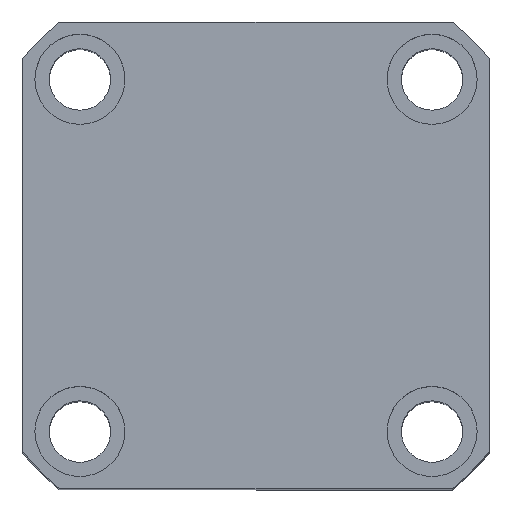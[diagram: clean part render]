
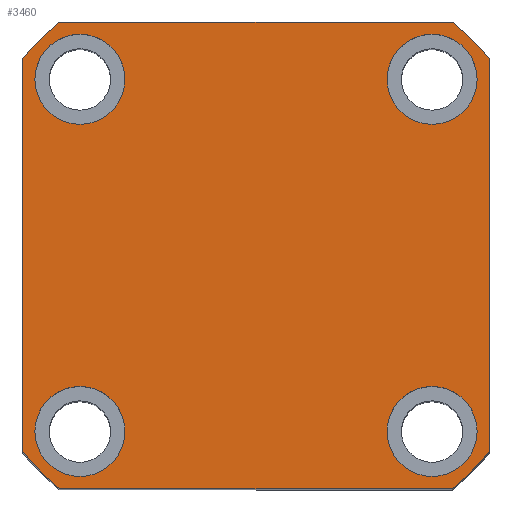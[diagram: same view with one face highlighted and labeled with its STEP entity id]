
A CAD part, top view. The second image highlights one B-rep face of the part: STEP entity #3460.
In plain terms, the highlighted planar face has unit normal (0, 0, 1) as drawn and (0, 0, -1) by its records, which use the part's own axes.
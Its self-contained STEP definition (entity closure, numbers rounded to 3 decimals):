
#70 = DIRECTION ( 'NONE',  ( 1., 0., 0. ) ) ;
#568 = CARTESIAN_POINT ( 'NONE',  ( -43., 43., 0. ) ) ;
#661 = CARTESIAN_POINT ( 'NONE',  ( 0., 0., 0. ) ) ;
#668 = ORIENTED_EDGE ( 'NONE', *, *, #3072, .F. ) ;
#999 = CARTESIAN_POINT ( 'NONE',  ( 57., 47.971, 0. ) ) ;
#1113 = LINE ( 'NONE', #17736, #13203 ) ;
#1412 = DIRECTION ( 'NONE',  ( 0., 0., -1. ) ) ;
#1886 = DIRECTION ( 'NONE',  ( 1., 0., 0. ) ) ;
#1922 = AXIS2_PLACEMENT_3D ( 'NONE', #18993, #9538, #70 ) ;
#2087 = VERTEX_POINT ( 'NONE', #3459 ) ;
#2135 = EDGE_CURVE ( 'NONE', #11338, #2889, #19583, .T. ) ;
#2150 = DIRECTION ( 'NONE',  ( -1., 0., 0. ) ) ;
#2221 = DIRECTION ( 'NONE',  ( 1., 0., 0. ) ) ;
#2283 = EDGE_CURVE ( 'NONE', #18685, #16450, #19099, .T. ) ;
#2291 = CARTESIAN_POINT ( 'NONE',  ( 47.971, 57., 0. ) ) ;
#2493 = VERTEX_POINT ( 'NONE', #11733 ) ;
#2601 = FACE_BOUND ( 'NONE', #7294, .T. ) ;
#2889 = VERTEX_POINT ( 'NONE', #11959 ) ;
#3072 = EDGE_CURVE ( 'NONE', #17220, #19344, #9307, .T. ) ;
#3168 = CARTESIAN_POINT ( 'NONE',  ( -47.971, 57., 0. ) ) ;
#3296 = CIRCLE ( 'NONE', #4046, 74.5 ) ;
#3374 = CIRCLE ( 'NONE', #1922, 74.5 ) ;
#3393 = DIRECTION ( 'NONE',  ( 0., 0., -1. ) ) ;
#3459 = CARTESIAN_POINT ( 'NONE',  ( -54., -43., 0. ) ) ;
#3460 = ADVANCED_FACE ( 'NONE', ( #6796, #15209, #12976, #2601, #18927 ), #16174, .F. ) ;
#3464 = DIRECTION ( 'NONE',  ( 0., 0., 1. ) ) ;
#3581 = CARTESIAN_POINT ( 'NONE',  ( -57., 47.971, 0. ) ) ;
#3851 = CARTESIAN_POINT ( 'NONE',  ( 43., 43., 0. ) ) ;
#4046 = AXIS2_PLACEMENT_3D ( 'NONE', #661, #11699, #2221 ) ;
#4137 = EDGE_CURVE ( 'NONE', #8697, #2087, #16439, .T. ) ;
#4323 = CARTESIAN_POINT ( 'NONE',  ( 54., -43., 0. ) ) ;
#4599 = ORIENTED_EDGE ( 'NONE', *, *, #2135, .F. ) ;
#4702 = EDGE_LOOP ( 'NONE', ( #18439, #11506, #15719, #4599, #9807, #18711, #668, #10060 ) ) ;
#4771 = CARTESIAN_POINT ( 'NONE',  ( 32., -43., 0. ) ) ;
#5006 = CIRCLE ( 'NONE', #6232, 74.5 ) ;
#5059 = CARTESIAN_POINT ( 'NONE',  ( 43., -43., 0. ) ) ;
#5335 = CARTESIAN_POINT ( 'NONE',  ( 0., 0., 0. ) ) ;
#5447 = DIRECTION ( 'NONE',  ( -1., 0., 0. ) ) ;
#5714 = EDGE_CURVE ( 'NONE', #14072, #15588, #20366, .T. ) ;
#5825 = LINE ( 'NONE', #8390, #18447 ) ;
#6232 = AXIS2_PLACEMENT_3D ( 'NONE', #12939, #3464, #14534 ) ;
#6647 = EDGE_CURVE ( 'NONE', #12633, #2493, #17633, .T. ) ;
#6656 = DIRECTION ( 'NONE',  ( -1., 0., 0. ) ) ;
#6796 = FACE_BOUND ( 'NONE', #7616, .T. ) ;
#6961 = DIRECTION ( 'NONE',  ( 0., 0., -1. ) ) ;
#6997 = DIRECTION ( 'NONE',  ( 0., 0., -1. ) ) ;
#7056 = VERTEX_POINT ( 'NONE', #10912 ) ;
#7185 = EDGE_LOOP ( 'NONE', ( #7532, #14954 ) ) ;
#7206 = EDGE_CURVE ( 'NONE', #2889, #14084, #3374, .T. ) ;
#7294 = EDGE_LOOP ( 'NONE', ( #20149, #9047 ) ) ;
#7532 = ORIENTED_EDGE ( 'NONE', *, *, #8026, .F. ) ;
#7616 = EDGE_LOOP ( 'NONE', ( #18934, #16200 ) ) ;
#7740 = CARTESIAN_POINT ( 'NONE',  ( 0., 0., 0. ) ) ;
#7747 = CARTESIAN_POINT ( 'NONE',  ( -57., 57., 0. ) ) ;
#7817 = AXIS2_PLACEMENT_3D ( 'NONE', #5059, #16115, #6656 ) ;
#7888 = CARTESIAN_POINT ( 'NONE',  ( -47.971, -57., 0. ) ) ;
#7924 = EDGE_LOOP ( 'NONE', ( #12985, #9324 ) ) ;
#7981 = DIRECTION ( 'NONE',  ( 0., 0., -1. ) ) ;
#8026 = EDGE_CURVE ( 'NONE', #2493, #12633, #12036, .T. ) ;
#8256 = CIRCLE ( 'NONE', #9001, 11. ) ;
#8390 = CARTESIAN_POINT ( 'NONE',  ( -57., 57., 0. ) ) ;
#8524 = DIRECTION ( 'NONE',  ( 0., 0., 1. ) ) ;
#8583 = VERTEX_POINT ( 'NONE', #999 ) ;
#8697 = VERTEX_POINT ( 'NONE', #12195 ) ;
#9001 = AXIS2_PLACEMENT_3D ( 'NONE', #16426, #6961, #18027 ) ;
#9047 = ORIENTED_EDGE ( 'NONE', *, *, #2283, .F. ) ;
#9307 = CIRCLE ( 'NONE', #16927, 74.5 ) ;
#9324 = ORIENTED_EDGE ( 'NONE', *, *, #5714, .F. ) ;
#9354 = DIRECTION ( 'NONE',  ( 1., 0., 0. ) ) ;
#9538 = DIRECTION ( 'NONE',  ( 0., 0., 1. ) ) ;
#9698 = EDGE_CURVE ( 'NONE', #9850, #17220, #5825, .T. ) ;
#9807 = ORIENTED_EDGE ( 'NONE', *, *, #19664, .F. ) ;
#9850 = VERTEX_POINT ( 'NONE', #2291 ) ;
#10060 = ORIENTED_EDGE ( 'NONE', *, *, #9698, .F. ) ;
#10384 = EDGE_CURVE ( 'NONE', #15588, #14072, #13753, .T. ) ;
#10880 = CARTESIAN_POINT ( 'NONE',  ( 43., -43., 0. ) ) ;
#10912 = CARTESIAN_POINT ( 'NONE',  ( -57., -47.971, 0. ) ) ;
#10930 = DIRECTION ( 'NONE',  ( 0., -1., 0. ) ) ;
#11218 = EDGE_CURVE ( 'NONE', #19344, #7056, #17224, .T. ) ;
#11338 = VERTEX_POINT ( 'NONE', #7888 ) ;
#11497 = CARTESIAN_POINT ( 'NONE',  ( -57., -57., 0. ) ) ;
#11506 = ORIENTED_EDGE ( 'NONE', *, *, #18045, .F. ) ;
#11623 = DIRECTION ( 'NONE',  ( 0., 0., -1. ) ) ;
#11699 = DIRECTION ( 'NONE',  ( 0., 0., 1. ) ) ;
#11706 = EDGE_CURVE ( 'NONE', #2087, #8697, #8256, .T. ) ;
#11733 = CARTESIAN_POINT ( 'NONE',  ( 32., 43., 0. ) ) ;
#11893 = AXIS2_PLACEMENT_3D ( 'NONE', #5335, #8524, #19558 ) ;
#11959 = CARTESIAN_POINT ( 'NONE',  ( 47.971, -57., 0. ) ) ;
#12036 = CIRCLE ( 'NONE', #17433, 11. ) ;
#12195 = CARTESIAN_POINT ( 'NONE',  ( -32., -43., 0. ) ) ;
#12255 = CIRCLE ( 'NONE', #20005, 11. ) ;
#12292 = CARTESIAN_POINT ( 'NONE',  ( 57., -47.971, 0. ) ) ;
#12465 = DIRECTION ( 'NONE',  ( -1., 0., 0. ) ) ;
#12633 = VERTEX_POINT ( 'NONE', #15466 ) ;
#12856 = CARTESIAN_POINT ( 'NONE',  ( -43., -43., 0. ) ) ;
#12939 = CARTESIAN_POINT ( 'NONE',  ( 0., 0., 0. ) ) ;
#12976 = FACE_BOUND ( 'NONE', #7185, .T. ) ;
#12985 = ORIENTED_EDGE ( 'NONE', *, *, #10384, .F. ) ;
#13031 = EDGE_CURVE ( 'NONE', #8583, #9850, #5006, .T. ) ;
#13053 = AXIS2_PLACEMENT_3D ( 'NONE', #16470, #6997, #18058 ) ;
#13196 = CARTESIAN_POINT ( 'NONE',  ( -32., 43., 0. ) ) ;
#13203 = VECTOR ( 'NONE', #19308, 1000. ) ;
#13486 = CARTESIAN_POINT ( 'NONE',  ( -54., 43., 0. ) ) ;
#13753 = CIRCLE ( 'NONE', #19678, 11. ) ;
#14072 = VERTEX_POINT ( 'NONE', #4323 ) ;
#14084 = VERTEX_POINT ( 'NONE', #12292 ) ;
#14449 = DIRECTION ( 'NONE',  ( -1., 0., 0. ) ) ;
#14534 = DIRECTION ( 'NONE',  ( 1., 0., 0. ) ) ;
#14915 = DIRECTION ( 'NONE',  ( 0., 0., -1. ) ) ;
#14954 = ORIENTED_EDGE ( 'NONE', *, *, #6647, .F. ) ;
#15209 = FACE_BOUND ( 'NONE', #7924, .T. ) ;
#15466 = CARTESIAN_POINT ( 'NONE',  ( 54., 43., 0. ) ) ;
#15588 = VERTEX_POINT ( 'NONE', #4771 ) ;
#15719 = ORIENTED_EDGE ( 'NONE', *, *, #7206, .F. ) ;
#15884 = VECTOR ( 'NONE', #1886, 1000. ) ;
#16115 = DIRECTION ( 'NONE',  ( 0., 0., -1. ) ) ;
#16174 = PLANE ( 'NONE',  #11893 ) ;
#16200 = ORIENTED_EDGE ( 'NONE', *, *, #4137, .F. ) ;
#16426 = CARTESIAN_POINT ( 'NONE',  ( -43., -43., 0. ) ) ;
#16439 = CIRCLE ( 'NONE', #16808, 11. ) ;
#16450 = VERTEX_POINT ( 'NONE', #13486 ) ;
#16470 = CARTESIAN_POINT ( 'NONE',  ( -43., 43., 0. ) ) ;
#16718 = VECTOR ( 'NONE', #10930, 1000. ) ;
#16808 = AXIS2_PLACEMENT_3D ( 'NONE', #12856, #3393, #14449 ) ;
#16895 = EDGE_CURVE ( 'NONE', #16450, #18685, #12255, .T. ) ;
#16927 = AXIS2_PLACEMENT_3D ( 'NONE', #7740, #18791, #9354 ) ;
#17220 = VERTEX_POINT ( 'NONE', #3168 ) ;
#17224 = LINE ( 'NONE', #7747, #16718 ) ;
#17433 = AXIS2_PLACEMENT_3D ( 'NONE', #17449, #7981, #19031 ) ;
#17449 = CARTESIAN_POINT ( 'NONE',  ( 43., 43., 0. ) ) ;
#17554 = AXIS2_PLACEMENT_3D ( 'NONE', #3851, #14915, #5447 ) ;
#17633 = CIRCLE ( 'NONE', #17554, 11. ) ;
#17736 = CARTESIAN_POINT ( 'NONE',  ( 57., 57., 0. ) ) ;
#17854 = DIRECTION ( 'NONE',  ( -1., 0., 0. ) ) ;
#18027 = DIRECTION ( 'NONE',  ( -1., 0., 0. ) ) ;
#18045 = EDGE_CURVE ( 'NONE', #14084, #8583, #1113, .T. ) ;
#18058 = DIRECTION ( 'NONE',  ( -1., 0., 0. ) ) ;
#18439 = ORIENTED_EDGE ( 'NONE', *, *, #13031, .F. ) ;
#18447 = VECTOR ( 'NONE', #17854, 1000. ) ;
#18685 = VERTEX_POINT ( 'NONE', #13196 ) ;
#18711 = ORIENTED_EDGE ( 'NONE', *, *, #11218, .F. ) ;
#18791 = DIRECTION ( 'NONE',  ( 0., 0., 1. ) ) ;
#18927 = FACE_OUTER_BOUND ( 'NONE', #4702, .T. ) ;
#18934 = ORIENTED_EDGE ( 'NONE', *, *, #11706, .F. ) ;
#18993 = CARTESIAN_POINT ( 'NONE',  ( 0., 0., 0. ) ) ;
#19031 = DIRECTION ( 'NONE',  ( -1., 0., 0. ) ) ;
#19099 = CIRCLE ( 'NONE', #13053, 11. ) ;
#19308 = DIRECTION ( 'NONE',  ( 0., 1., 0. ) ) ;
#19344 = VERTEX_POINT ( 'NONE', #3581 ) ;
#19558 = DIRECTION ( 'NONE',  ( 1., 0., 0. ) ) ;
#19583 = LINE ( 'NONE', #11497, #15884 ) ;
#19664 = EDGE_CURVE ( 'NONE', #7056, #11338, #3296, .T. ) ;
#19678 = AXIS2_PLACEMENT_3D ( 'NONE', #10880, #1412, #12465 ) ;
#20005 = AXIS2_PLACEMENT_3D ( 'NONE', #568, #11623, #2150 ) ;
#20149 = ORIENTED_EDGE ( 'NONE', *, *, #16895, .F. ) ;
#20366 = CIRCLE ( 'NONE', #7817, 11. ) ;
